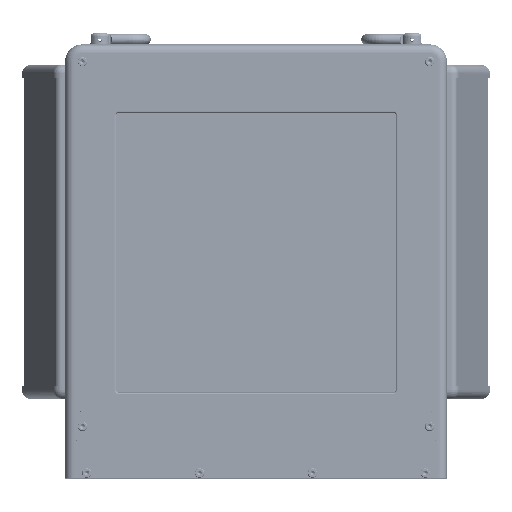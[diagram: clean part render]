
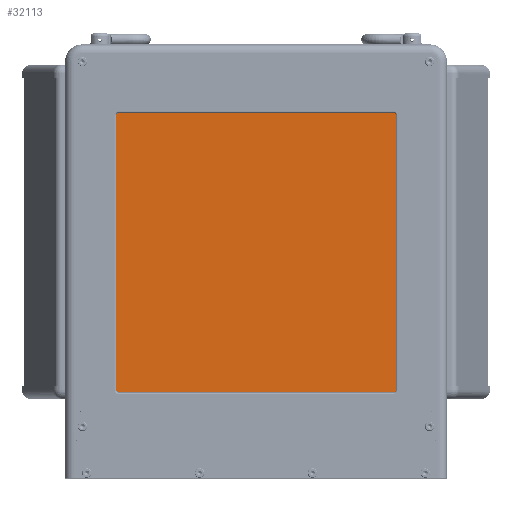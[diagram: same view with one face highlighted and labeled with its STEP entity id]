
A CAD part, top view. The second image highlights one B-rep face of the part: STEP entity #32113.
In plain terms, the highlighted planar face has unit normal (0, 0, 1).
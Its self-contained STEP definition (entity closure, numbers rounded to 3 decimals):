
#1761 = VERTEX_POINT ( 'NONE', #49005 ) ;
#3220 = CIRCLE ( 'NONE', #232981, 0.056 ) ;
#10673 = VECTOR ( 'NONE', #149550, 39.37 ) ;
#13802 = VERTEX_POINT ( 'NONE', #139426 ) ;
#14260 = DIRECTION ( 'NONE',  ( 0., 0., 1. ) ) ;
#16589 = LINE ( 'NONE', #34209, #126526 ) ;
#24850 = CARTESIAN_POINT ( 'NONE',  ( 4.2, 2.3, -1.538 ) ) ;
#26776 = EDGE_LOOP ( 'NONE', ( #231672, #43745 ) ) ;
#30389 = DIRECTION ( 'NONE',  ( 1., 0., 0. ) ) ;
#30924 = DIRECTION ( 'NONE',  ( 0., 0., 1. ) ) ;
#32113 = ADVANCED_FACE ( 'NONE', ( #199051, #253925, #95642, #102085, #89145 ), #194891, .T. ) ;
#34209 = CARTESIAN_POINT ( 'NONE',  ( -4.375, 2.125, -1.538 ) ) ;
#34826 = CARTESIAN_POINT ( 'NONE',  ( 4.375, 2.125, -1.538 ) ) ;
#36179 = ORIENTED_EDGE ( 'NONE', *, *, #234561, .F. ) ;
#39614 = CARTESIAN_POINT ( 'NONE',  ( 4.2, 10.7, -1.538 ) ) ;
#42051 = CARTESIAN_POINT ( 'NONE',  ( -4.375, 10.875, -1.538 ) ) ;
#43745 = ORIENTED_EDGE ( 'NONE', *, *, #99548, .F. ) ;
#45652 = DIRECTION ( 'NONE',  ( 1., 0., 0. ) ) ;
#45741 = CARTESIAN_POINT ( 'NONE',  ( 4.375, 10.875, -1.538 ) ) ;
#47559 = ORIENTED_EDGE ( 'NONE', *, *, #220524, .T. ) ;
#49005 = CARTESIAN_POINT ( 'NONE',  ( -4.256, 10.7, -1.538 ) ) ;
#51694 = EDGE_CURVE ( 'NONE', #13802, #217305, #90223, .T. ) ;
#52821 = CIRCLE ( 'NONE', #258829, 0.056 ) ;
#53300 = VECTOR ( 'NONE', #144963, 39.37 ) ;
#56010 = ORIENTED_EDGE ( 'NONE', *, *, #226590, .T. ) ;
#56346 = CARTESIAN_POINT ( 'NONE',  ( -4.2, 10.7, -1.538 ) ) ;
#59902 = CIRCLE ( 'NONE', #184421, 0.056 ) ;
#60391 = DIRECTION ( 'NONE',  ( 1., 0., 0. ) ) ;
#63610 = CARTESIAN_POINT ( 'NONE',  ( -4.2, 2.3, -1.538 ) ) ;
#63959 = CIRCLE ( 'NONE', #94311, 0.056 ) ;
#65527 = ORIENTED_EDGE ( 'NONE', *, *, #248157, .T. ) ;
#65586 = LINE ( 'NONE', #45741, #10673 ) ;
#66200 = LINE ( 'NONE', #42051, #53300 ) ;
#71059 = CARTESIAN_POINT ( 'NONE',  ( -4.375, 2.125, -1.538 ) ) ;
#72260 = ORIENTED_EDGE ( 'NONE', *, *, #74616, .T. ) ;
#74616 = EDGE_CURVE ( 'NONE', #218833, #245229, #212257, .T. ) ;
#77110 = DIRECTION ( 'NONE',  ( 1., 0., 0. ) ) ;
#84468 = DIRECTION ( 'NONE',  ( 1., 0., 0. ) ) ;
#89145 = FACE_OUTER_BOUND ( 'NONE', #145305, .T. ) ;
#89326 = VERTEX_POINT ( 'NONE', #166960 ) ;
#90223 = CIRCLE ( 'NONE', #240501, 0.056 ) ;
#94311 = AXIS2_PLACEMENT_3D ( 'NONE', #56346, #200894, #77110 ) ;
#94647 = ORIENTED_EDGE ( 'NONE', *, *, #154407, .F. ) ;
#95642 = FACE_BOUND ( 'NONE', #262313, .T. ) ;
#99158 = VERTEX_POINT ( 'NONE', #256269 ) ;
#99548 = EDGE_CURVE ( 'NONE', #99158, #89326, #3220, .T. ) ;
#102085 = FACE_BOUND ( 'NONE', #191037, .T. ) ;
#102842 = EDGE_CURVE ( 'NONE', #1761, #141132, #135333, .T. ) ;
#104257 = CARTESIAN_POINT ( 'NONE',  ( 4.256, 10.7, -1.538 ) ) ;
#115351 = VECTOR ( 'NONE', #213559, 39.37 ) ;
#118740 = VERTEX_POINT ( 'NONE', #199879 ) ;
#119221 = CIRCLE ( 'NONE', #190463, 0.056 ) ;
#121491 = DIRECTION ( 'NONE',  ( 0., 0., 1. ) ) ;
#121633 = CARTESIAN_POINT ( 'NONE',  ( 4.2, 10.7, -1.538 ) ) ;
#126310 = VERTEX_POINT ( 'NONE', #34826 ) ;
#126526 = VECTOR ( 'NONE', #241013, 39.37 ) ;
#135333 = CIRCLE ( 'NONE', #212795, 0.056 ) ;
#137931 = CARTESIAN_POINT ( 'NONE',  ( -4.2, 10.7, -1.538 ) ) ;
#139426 = CARTESIAN_POINT ( 'NONE',  ( -4.144, 2.3, -1.538 ) ) ;
#141132 = VERTEX_POINT ( 'NONE', #178074 ) ;
#142288 = DIRECTION ( 'NONE',  ( 1., 0., 0. ) ) ;
#144963 = DIRECTION ( 'NONE',  ( 0., -1., 0. ) ) ;
#145140 = VERTEX_POINT ( 'NONE', #186184 ) ;
#145305 = EDGE_LOOP ( 'NONE', ( #56010, #65527, #47559, #72260 ) ) ;
#149550 = DIRECTION ( 'NONE',  ( 0., 1., 0. ) ) ;
#154099 = DIRECTION ( 'NONE',  ( 0., 0., 1. ) ) ;
#154407 = EDGE_CURVE ( 'NONE', #203841, #118740, #52821, .T. ) ;
#154649 = CARTESIAN_POINT ( 'NONE',  ( -4.2, 2.3, -1.538 ) ) ;
#158410 = ORIENTED_EDGE ( 'NONE', *, *, #51694, .F. ) ;
#158763 = DIRECTION ( 'NONE',  ( 1., 0., 0. ) ) ;
#166960 = CARTESIAN_POINT ( 'NONE',  ( 4.144, 2.3, -1.538 ) ) ;
#169434 = DIRECTION ( 'NONE',  ( 0., 0., 1. ) ) ;
#175494 = DIRECTION ( 'NONE',  ( 1., 0., 0. ) ) ;
#178074 = CARTESIAN_POINT ( 'NONE',  ( -4.144, 10.7, -1.538 ) ) ;
#183303 = CARTESIAN_POINT ( 'NONE',  ( 4.375, 10.875, -1.538 ) ) ;
#184193 = DIRECTION ( 'NONE',  ( 0., 0., 1. ) ) ;
#184421 = AXIS2_PLACEMENT_3D ( 'NONE', #121633, #266099, #142288 ) ;
#186184 = CARTESIAN_POINT ( 'NONE',  ( -4.375, 2.125, -1.538 ) ) ;
#190463 = AXIS2_PLACEMENT_3D ( 'NONE', #245169, #121491, #265971 ) ;
#191037 = EDGE_LOOP ( 'NONE', ( #224130, #36179 ) ) ;
#194891 = PLANE ( 'NONE',  #244127 ) ;
#195409 = EDGE_CURVE ( 'NONE', #217305, #13802, #267334, .T. ) ;
#199051 = FACE_BOUND ( 'NONE', #231067, .T. ) ;
#199879 = CARTESIAN_POINT ( 'NONE',  ( 4.144, 10.7, -1.538 ) ) ;
#200894 = DIRECTION ( 'NONE',  ( 0., 0., 1. ) ) ;
#203841 = VERTEX_POINT ( 'NONE', #104257 ) ;
#208163 = DIRECTION ( 'NONE',  ( 0., 0., 1. ) ) ;
#212257 = LINE ( 'NONE', #234319, #115351 ) ;
#212795 = AXIS2_PLACEMENT_3D ( 'NONE', #137931, #14260, #158763 ) ;
#213559 = DIRECTION ( 'NONE',  ( -1., 0., 0. ) ) ;
#217305 = VERTEX_POINT ( 'NONE', #267759 ) ;
#218833 = VERTEX_POINT ( 'NONE', #183303 ) ;
#218968 = AXIS2_PLACEMENT_3D ( 'NONE', #154649, #30924, #175494 ) ;
#220524 = EDGE_CURVE ( 'NONE', #126310, #218833, #65586, .T. ) ;
#223459 = CARTESIAN_POINT ( 'NONE',  ( -4.375, 10.875, -1.538 ) ) ;
#224130 = ORIENTED_EDGE ( 'NONE', *, *, #102842, .F. ) ;
#226590 = EDGE_CURVE ( 'NONE', #245229, #145140, #66200, .T. ) ;
#230304 = EDGE_CURVE ( 'NONE', #89326, #99158, #119221, .T. ) ;
#230860 = ORIENTED_EDGE ( 'NONE', *, *, #242242, .F. ) ;
#231067 = EDGE_LOOP ( 'NONE', ( #252948, #158410 ) ) ;
#231672 = ORIENTED_EDGE ( 'NONE', *, *, #230304, .F. ) ;
#232981 = AXIS2_PLACEMENT_3D ( 'NONE', #24850, #169434, #45652 ) ;
#234319 = CARTESIAN_POINT ( 'NONE',  ( -4.375, 10.875, -1.538 ) ) ;
#234561 = EDGE_CURVE ( 'NONE', #141132, #1761, #63959, .T. ) ;
#240501 = AXIS2_PLACEMENT_3D ( 'NONE', #63610, #208163, #84468 ) ;
#241013 = DIRECTION ( 'NONE',  ( 1., 0., 0. ) ) ;
#242242 = EDGE_CURVE ( 'NONE', #118740, #203841, #59902, .T. ) ;
#244127 = AXIS2_PLACEMENT_3D ( 'NONE', #71059, #154099, #30389 ) ;
#245169 = CARTESIAN_POINT ( 'NONE',  ( 4.2, 2.3, -1.538 ) ) ;
#245229 = VERTEX_POINT ( 'NONE', #223459 ) ;
#248157 = EDGE_CURVE ( 'NONE', #145140, #126310, #16589, .T. ) ;
#252948 = ORIENTED_EDGE ( 'NONE', *, *, #195409, .F. ) ;
#253925 = FACE_BOUND ( 'NONE', #26776, .T. ) ;
#256269 = CARTESIAN_POINT ( 'NONE',  ( 4.256, 2.3, -1.538 ) ) ;
#258829 = AXIS2_PLACEMENT_3D ( 'NONE', #39614, #184193, #60391 ) ;
#262313 = EDGE_LOOP ( 'NONE', ( #230860, #94647 ) ) ;
#265971 = DIRECTION ( 'NONE',  ( 1., 0., 0. ) ) ;
#266099 = DIRECTION ( 'NONE',  ( 0., 0., 1. ) ) ;
#267334 = CIRCLE ( 'NONE', #218968, 0.056 ) ;
#267759 = CARTESIAN_POINT ( 'NONE',  ( -4.256, 2.3, -1.538 ) ) ;
